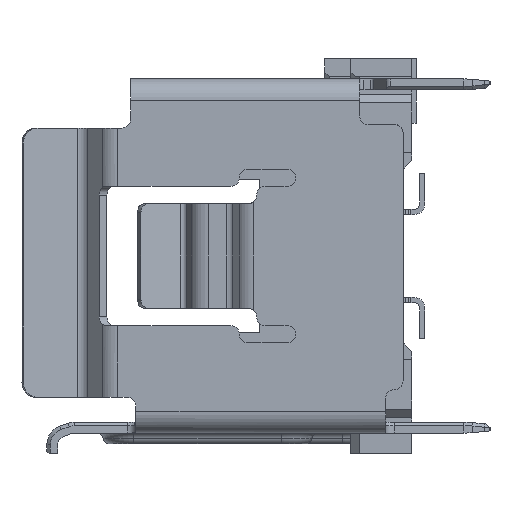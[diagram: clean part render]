
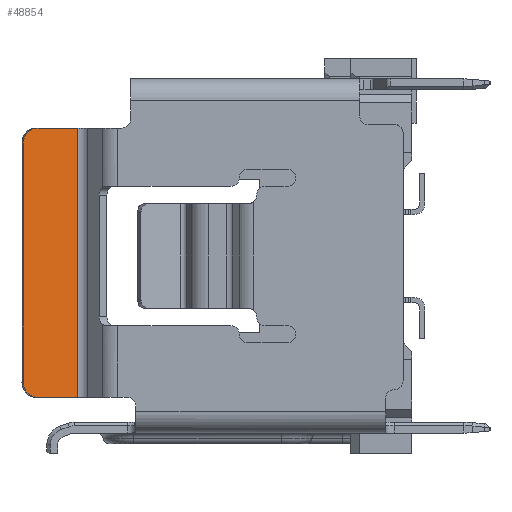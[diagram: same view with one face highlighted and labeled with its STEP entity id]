
A CAD part, left-side view. The second image highlights one B-rep face of the part: STEP entity #48854.
In plain terms, the highlighted planar face has unit normal (-0.985, -0.174, 0).
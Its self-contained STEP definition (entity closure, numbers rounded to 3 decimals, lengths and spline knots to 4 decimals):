
#1322=DIRECTION('',(-0.174,0.985,0.));
#1323=VECTOR('',#1322,0.9216);
#1324=CARTESIAN_POINT('',(-13.0326,7.6917,2.945));
#1325=LINE('',#1324,#1323);
#1376=CARTESIAN_POINT('',(-13.1926,8.5993,2.595));
#1377=DIRECTION('',(0.985,0.174,0.));
#1378=DIRECTION('',(-0.174,0.985,0.));
#1379=AXIS2_PLACEMENT_3D('',#1376,#1377,#1378);
#1381=CARTESIAN_POINT('',(-13.1926,8.5993,-2.905));
#1382=DIRECTION('',(0.985,0.174,0.));
#1383=DIRECTION('',(0.,0.,-1.));
#1384=AXIS2_PLACEMENT_3D('',#1381,#1382,#1383);
#1386=DIRECTION('',(0.,0.,1.));
#1387=VECTOR('',#1386,5.5);
#1388=CARTESIAN_POINT('',(-13.2534,8.944,
-2.905));
#1389=LINE('',#1388,#1387);
#1390=DIRECTION('',(0.,0.,1.));
#1391=VECTOR('',#1390,6.2);
#1392=CARTESIAN_POINT('',(-13.0326,7.6917,-3.255));
#1393=LINE('',#1392,#1391);
#3006=DIRECTION('',(0.174,-0.985,0.));
#3007=VECTOR('',#3006,0.9216);
#3008=CARTESIAN_POINT('',(-13.1926,8.5993,-3.255));
#3009=LINE('',#3008,#3007);
#37625=CARTESIAN_POINT('',(-13.0326,7.6917,2.945));
#37626=VERTEX_POINT('',#37625);
#37627=CARTESIAN_POINT('',(-13.1926,8.5993,2.945));
#37628=VERTEX_POINT('',#37627);
#37635=CARTESIAN_POINT('',(-13.2534,8.944,
2.595));
#37636=VERTEX_POINT('',#37635);
#37642=CARTESIAN_POINT('',(-13.2534,8.944,
-2.905));
#37643=VERTEX_POINT('',#37642);
#37644=CARTESIAN_POINT('',(-13.0326,7.6917,-3.255));
#37645=VERTEX_POINT('',#37644);
#37646=CARTESIAN_POINT('',(-13.1926,8.5993,-3.255));
#37647=VERTEX_POINT('',#37646);
#48838=CARTESIAN_POINT('',(-13.2534,8.944,2.945));
#48839=DIRECTION('',(-0.985,-0.174,0.));
#48840=DIRECTION('',(0.174,-0.985,0.));
#48841=AXIS2_PLACEMENT_3D('',#48838,#48839,#48840);
#48842=PLANE('',#48841);
#48843=ORIENTED_EDGE('',*,*,#48799,.T.);
#48844=ORIENTED_EDGE('',*,*,#48766,.F.);
#48846=ORIENTED_EDGE('',*,*,#48845,.F.);
#48848=ORIENTED_EDGE('',*,*,#48847,.F.);
#48850=ORIENTED_EDGE('',*,*,#48849,.T.);
#48851=ORIENTED_EDGE('',*,*,#48830,.T.);
#48852=EDGE_LOOP('',(#48843,#48844,#48846,#48848,#48850,#48851));
#48853=FACE_OUTER_BOUND('',#48852,.F.);
#48854=ADVANCED_FACE('',(#48853),#48842,.T.);
#1380=CIRCLE('',#1379,0.35);
#1385=CIRCLE('',#1384,0.35);
#48766=EDGE_CURVE('',#37626,#37628,#1325,.T.);
#48799=EDGE_CURVE('',#37636,#37628,#1380,.T.);
#48830=EDGE_CURVE('',#37643,#37636,#1389,.T.);
#48845=EDGE_CURVE('',#37645,#37626,#1393,.T.);
#48847=EDGE_CURVE('',#37647,#37645,#3009,.T.);
#48849=EDGE_CURVE('',#37647,#37643,#1385,.T.);
